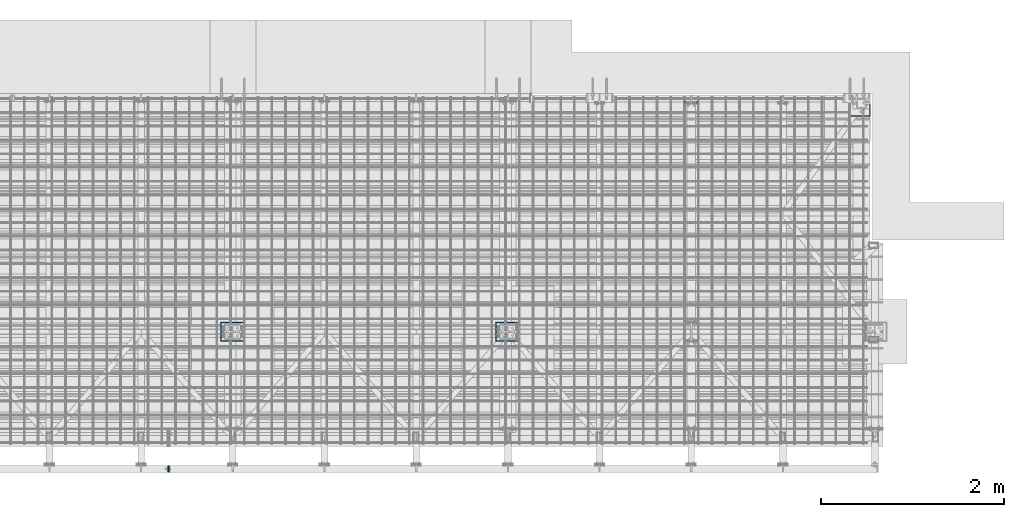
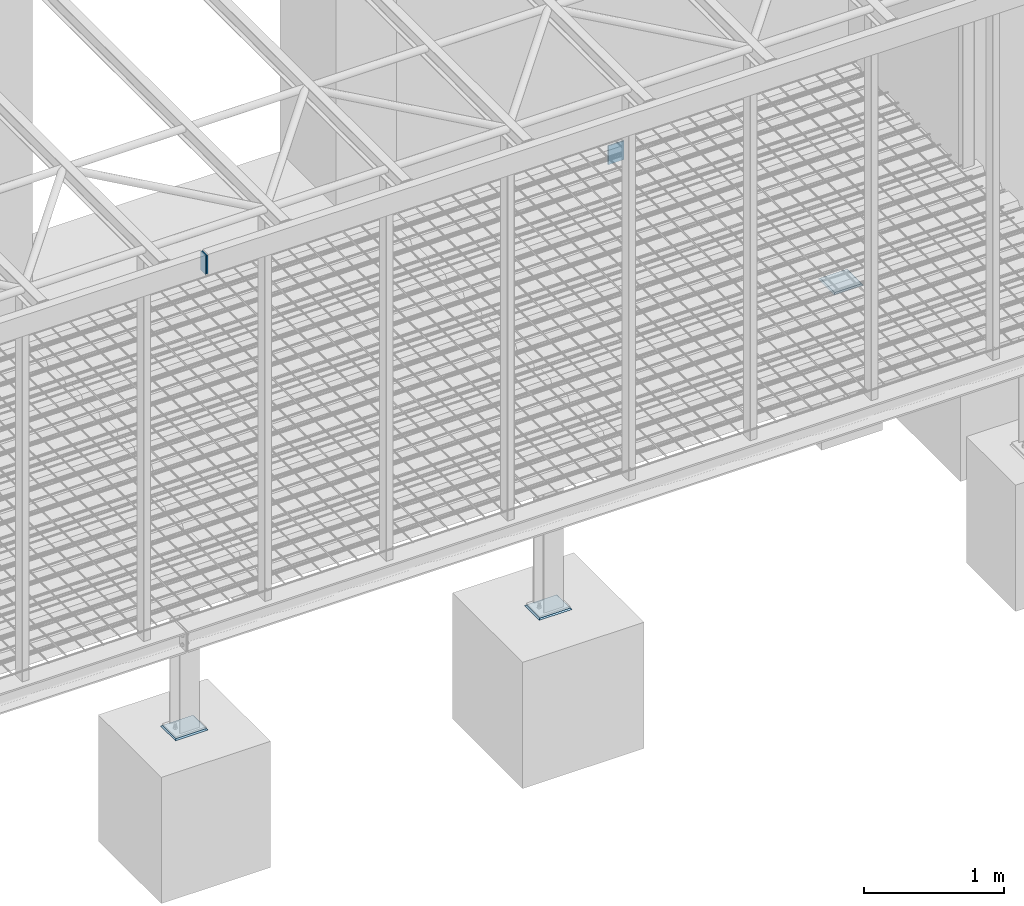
# One storey, part 13 of 26: 6 plates, 6 elements without a shape of their own.
"""IFC2X3 building model written with IfcOpenShell, lengths in millimetres."""

import ifcopenshell
import ifcopenshell.guid

model = None  # the IFC model being written
_history = None  # IfcOwnerHistory: only IFC2X3 demands one
_inside = {}  # id of a spatial element -> (the spatial element, [elements in it])
_under = {}  # id of a project, library or spatial element -> (it, [spatial elements below it])
_declared = {}  # id of a project -> (the project, [libraries it declares])
_typed = {}  # id of a type object -> (the type object, [elements of that type])
_made_of = {}  # id of a material, layer set ... -> (it, [elements and type objects made of it])


def new_model(schema):
    """Start an empty IFC model of exactly this schema.

    Asked for "IFC4X3", IfcOpenShell would pick the latest addendum, in which some entities
    have other attributes; the version numbers below select the first issue.
    IFC2X3 requires an IfcOwnerHistory on every rooted entity: one is made here for all.
    """
    global model, _history
    if schema == "IFC4X3":
        model = ifcopenshell.file(schema_version=(4, 3, 0, 0))
    else:
        model = ifcopenshell.file(schema=schema)
    _inside.clear()
    _under.clear()
    _declared.clear()
    _typed.clear()
    _made_of.clear()
    _history = None
    if model.schema == "IFC2X3":
        org = make("IfcOrganization", Name="unknown")
        user = make(
            "IfcPersonAndOrganization",
            ThePerson=make("IfcPerson", FamilyName="unknown"),
            TheOrganization=org,
        )
        app = make(
            "IfcApplication",
            ApplicationDeveloper=org,
            Version="unknown",
            ApplicationFullName="unknown",
            ApplicationIdentifier="unknown",
        )
        _history = make(
            "IfcOwnerHistory",
            OwningUser=user,
            OwningApplication=app,
            ChangeAction="ADDED",
            CreationDate=0,
        )
    return model


def make(cls, **values):
    """One entity of the class cls with the attributes given. An attribute that is None is left unset."""
    return model.create_entity(
        cls, **{name: value for name, value in values.items() if value is not None}
    )


def rooted(cls, **values):
    """An entity with a GlobalId (a new one), such as an element, a storey or a relation."""
    return make(cls, GlobalId=ifcopenshell.guid.new(), OwnerHistory=_history, **values)


def si_unit(unit_type, name, prefix=None):
    """IfcSIUnit, for example si_unit("LENGTHUNIT", "METRE", prefix="MILLI")."""
    return make("IfcSIUnit", UnitType=unit_type, Prefix=prefix, Name=name)


def assignment(units):
    """IfcUnitAssignment: the units of a project."""
    return None if units is None else make("IfcUnitAssignment", Units=units)


def point(xyz):
    """IfcCartesianPoint."""
    return None if xyz is None else make("IfcCartesianPoint", Coordinates=xyz)


def direction(xyz):
    """IfcDirection."""
    return None if xyz is None else make("IfcDirection", DirectionRatios=xyz)


def frame(location, z_axis=None, x_axis=None):
    """IfcAxis2Placement3D, a coordinate frame: its origin and axes. An axis left out is left unset."""
    return make(
        "IfcAxis2Placement3D",
        Location=point(location),
        Axis=direction(z_axis),
        RefDirection=direction(x_axis),
    )


def origin_with_axes():
    """The frame at (0, 0, 0) with the z axis (0, 0, 1) and the x axis (1, 0, 0) written out."""
    return frame((0.0, 0.0, 0.0), z_axis=(0.0, 0.0, 1.0), x_axis=(1.0, 0.0, 0.0))


def place(relative_to, where):
    """IfcLocalPlacement: puts the frame where relative to a parent placement (None: the world)."""
    return make(
        "IfcLocalPlacement", PlacementRelTo=relative_to, RelativePlacement=where
    )


def context(
    kind, dimensions, precision=None, world=None, true_north=None, identifier=None
):
    """IfcGeometricRepresentationContext, for example the 3D "Model" context."""
    return make(
        "IfcGeometricRepresentationContext",
        ContextIdentifier=identifier,
        ContextType=kind,
        CoordinateSpaceDimension=dimensions,
        Precision=precision,
        WorldCoordinateSystem=world,
        TrueNorth=true_north,
    )


def subcontext(parent, identifier, kind, view, scale=None):
    """IfcGeometricRepresentationSubContext, for example "Body" below "Model"."""
    return make(
        "IfcGeometricRepresentationSubContext",
        ContextIdentifier=identifier,
        ContextType=kind,
        ParentContext=parent,
        TargetScale=scale,
        TargetView=view,
    )


def project(units=None, contexts=None):
    """IfcProject with its units and contexts."""
    return rooted(
        "IfcProject",
        Name="project",
        RepresentationContexts=contexts,
        UnitsInContext=assignment(units),
    )


def spatial(cls, under=None, at=None, **own):
    """A site, building, storey or space (cls), placed at a placement, below another one or the project."""
    s = rooted(cls, ObjectPlacement=at, **own)
    if under is not None:
        _under.setdefault(under.id(), (under, []))[1].append(s)
    return s


def polyline(points):
    """IfcPolyline through the points."""
    return make("IfcPolyline", Points=[point(p) for p in points])


def outline(outer, holes=None, kind="AREA"):
    """IfcArbitraryClosedProfileDef: a profile drawn as a closed curve; with holes, ...WithVoids."""
    if holes is None:
        return make("IfcArbitraryClosedProfileDef", ProfileType=kind, OuterCurve=outer)
    return make(
        "IfcArbitraryProfileDefWithVoids",
        ProfileType=kind,
        OuterCurve=outer,
        InnerCurves=holes,
    )


def extrude(swept, where, along, depth):
    """IfcExtrudedAreaSolid: the profile swept, set in the frame where, extruded along a direction by depth."""
    return make(
        "IfcExtrudedAreaSolid",
        SweptArea=swept,
        Position=where,
        ExtrudedDirection=direction(along),
        Depth=depth,
    )


def boolean(op, a, b):
    """IfcBooleanResult of two solids."""
    return make("IfcBooleanResult", Operator=op, FirstOperand=a, SecondOperand=b)


def shape(context_of_items, identifier, shape_type, items):
    """IfcShapeRepresentation: the items that make up one representation, for example the "Body"."""
    return make(
        "IfcShapeRepresentation",
        ContextOfItems=context_of_items,
        RepresentationIdentifier=identifier,
        RepresentationType=shape_type,
        Items=items,
    )


def material(Name=None, Category=None):
    """IfcMaterial."""
    return make("IfcMaterial", Name=Name, Category=Category)


def made_of(thing, what):
    """Note that an element or type object is made of a material, layer set ...; save() writes the relation."""
    if what is not None:
        _made_of.setdefault(what.id(), (what, []))[1].append(thing)
    return thing


def type_object(cls, material=None, **own):
    """A type object (cls), such as IfcWallType, which elements share."""
    return made_of(rooted(cls, **own), material)


def element(
    cls,
    number,
    at=None,
    inside=None,
    cuts=None,
    type_object=None,
    material=None,
    context=None,
    identifier="Body",
    shape_type=None,
    held_by="IfcProductDefinitionShape",
    body=None,
    shapes=None,
    **own,
):
    """One element of the class cls, such as IfcWall. Its Tag is "e" and its number.

    at: its placement. inside: the storey or other place that contains it. cuts: it is an
    opening in that element (IfcRelVoidsElement). A single representation is given by context,
    identifier, shape_type and body (its items); several are given by shapes. held_by: the class
    of the entity that holds the representations. save() writes the other relations.
    """
    e = rooted(cls, Tag="e%d" % number, ObjectPlacement=at, **own)
    if body is not None:
        shapes = [shape(context, identifier, shape_type, body)]
    if shapes is not None:
        e.Representation = make(held_by, Representations=shapes)
    if inside is not None:
        _inside.setdefault(inside.id(), (inside, []))[1].append(e)
    if cuts is not None:
        rooted(
            "IfcRelVoidsElement", RelatingBuildingElement=cuts, RelatedOpeningElement=e
        )
    if type_object is not None:
        _typed.setdefault(type_object.id(), (type_object, []))[1].append(e)
    return made_of(e, material)


def aggregate(whole, parts):
    """IfcRelAggregates: a whole, such as a stair, and the parts it consists of."""
    return rooted("IfcRelAggregates", RelatingObject=whole, RelatedObjects=parts)


def save(model, path):
    """Write the relations noted so far, then the file.

    IfcRelAggregates (storeys below a building ...), IfcRelContainedInSpatialStructure (elements
    in a storey), IfcRelDefinesByType, IfcRelAssociatesMaterial and IfcRelDeclares: one each for
    every whole, place, type object, material and project.
    """
    for whole, parts in _under.values():
        aggregate(whole, parts)
    for where, things in _inside.values():
        rooted(
            "IfcRelContainedInSpatialStructure",
            RelatedElements=things,
            RelatingStructure=where,
        )
    for kind, things in _typed.values():
        rooted("IfcRelDefinesByType", RelatedObjects=things, RelatingType=kind)
    for what, things in _made_of.values():
        rooted("IfcRelAssociatesMaterial", RelatedObjects=things, RelatingMaterial=what)
    for by, libraries in _declared.values():
        rooted("IfcRelDeclares", RelatingContext=by, RelatedDefinitions=libraries)
    model.write(path)


model = new_model("IFC2X3")

# Units and contexts
model_context = context("Model", 3, precision=1e-05, world=origin_with_axes())
body_context = subcontext(model_context, "Body", "Model", "MODEL_VIEW")
ifc_project = project(units=[si_unit("LENGTHUNIT", "METRE", prefix="MILLI"), si_unit("AREAUNIT", "SQUARE_METRE"), si_unit("VOLUMEUNIT", "CUBIC_METRE"), si_unit("MASSUNIT", "GRAM", prefix="KILO"), si_unit("TIMEUNIT", "SECOND"), si_unit("PLANEANGLEUNIT", "RADIAN"), si_unit("SOLIDANGLEUNIT", "STERADIAN"), si_unit("THERMODYNAMICTEMPERATUREUNIT", "DEGREE_CELSIUS"), si_unit("LUMINOUSINTENSITYUNIT", "LUMEN")], contexts=[model_context])

# Site, building, storey
site_placement = place(None, origin_with_axes())
site = spatial("IfcSite", under=ifc_project, at=site_placement, Name="Undefined", CompositionType="ELEMENT")
building_placement = place(site_placement, origin_with_axes())
building = spatial("IfcBuilding", under=site, at=building_placement, Name="Undefined", CompositionType="ELEMENT")
storey_placement = place(building_placement, origin_with_axes())
storey = spatial("IfcBuildingStorey", under=building, at=storey_placement, Name="Undefined", CompositionType="ELEMENT", Elevation=0.0)

# Assembly, plate
assembly_1_placement = place(storey_placement, origin_with_axes())
assembly_1 = element("IfcElementAssembly", 1, at=assembly_1_placement, inside=storey, Name="GROUT", AssemblyPlace="NOTDEFINED", PredefinedType="NOTDEFINED")
ifc_material_1 = material(Name="Undefined/GROUT")
plate_type_1 = type_object("IfcPlateType", Name="PL10*230", PredefinedType="NOTDEFINED")
plate_1_placement = place(assembly_1_placement, frame((16005.0, 3610.0, -1995.0), z_axis=(0.0, 0.0, 1.0), x_axis=(0.0, 1.0, 0.0)))
plate_1 = element("IfcPlate", 2, at=plate_1_placement, type_object=plate_type_1, material=ifc_material_1, Name="GROUT", ObjectType="PL10*230", context=body_context, shape_type="CSG", body=[
    boolean("DIFFERENCE", boolean("DIFFERENCE", boolean("DIFFERENCE", boolean("DIFFERENCE", extrude(outline(polyline([(0.0, 0.0), (230.0, 0.0), (230.0, 240.0), (0.0, 240.0), (0.0, 0.0)])), frame((0.0, 0.0, -5.0), z_axis=(0.0, 0.0, 1.0), x_axis=(1.0, 0.0, 0.0)), (0.0, 0.0, 1.0), 10.0), extrude(outline(polyline([(0.0, 0.0), (30.1421356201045, -2.00088834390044e-11), (15.0710678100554, 15.0710678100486), (0.0, 0.0)])), frame((-5.65685424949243, 288.0, -10.6568542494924), z_axis=(0.0, -1.0, 0.0), x_axis=(0.707106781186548, 0.0, 0.707106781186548)), (0.0, 0.0, 1.0), 306.0)), extrude(outline(polyline([(0.0, 0.0), (28.1421356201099, -2.91038304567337e-11), (14.0710678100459, 14.0710678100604), (0.0, 0.0)])), frame((258.0, 244.949747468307, -9.94974746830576), z_axis=(-1.0, 0.0, 0.0), x_axis=(0.0, -0.707106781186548, 0.707106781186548)), (0.0, 0.0, 1.0), 304.0)), extrude(outline(polyline([(0.0, 0.0), (26.1421356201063, -2.1600499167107e-11), (13.0710678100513, 13.0710678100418), (0.0, 0.0)])), frame((234.242640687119, -16.0, -9.24264068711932), z_axis=(0.0, 1.0, 0.0), x_axis=(-0.707106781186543, 0.0, 0.707106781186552)), (0.0, 0.0, 1.0), 302.0)), extrude(outline(polyline([(0.0, 0.0), (24.1421356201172, -1.81898940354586e-11), (12.0710678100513, 12.071067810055), (0.0, 0.0)])), frame((-44.0, -3.53553390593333, -8.53553390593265), z_axis=(1.0, 0.0, 0.0), x_axis=(0.0, 0.707106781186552, 0.707106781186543)), (0.0, 0.0, 1.0), 300.0)),
])
aggregate(assembly_1, [plate_1])

assembly_2_placement = place(storey_placement, origin_with_axes())
assembly_2 = element("IfcElementAssembly", 3, at=assembly_2_placement, inside=storey, Name="GROUT", AssemblyPlace="NOTDEFINED", PredefinedType="NOTDEFINED")
plate_type_2 = type_object("IfcPlateType", Name="PL10*212", PredefinedType="NOTDEFINED")
plate_2_placement = place(assembly_2_placement, frame((12185.0, 1154.0, -1995.0), z_axis=(0.0, 0.0, 1.0), x_axis=(0.0, 1.0, 0.0)))
plate_2 = element("IfcPlate", 4, at=plate_2_placement, type_object=plate_type_2, material=ifc_material_1, Name="GROUT", ObjectType="PL10*212", context=body_context, shape_type="CSG", body=[
    boolean("DIFFERENCE", boolean("DIFFERENCE", boolean("DIFFERENCE", boolean("DIFFERENCE", extrude(outline(polyline([(0.0, 0.0), (212.0, 0.0), (212.0, 270.0), (0.0, 270.0), (0.0, 0.0)])), frame((0.0, 0.0, -5.0), z_axis=(0.0, 0.0, 1.0), x_axis=(1.0, 0.0, 0.0)), (0.0, 0.0, 1.0), 10.0), extrude(outline(polyline([(0.0, 0.0), (30.1421356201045, -2.00088834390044e-11), (15.0710678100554, 15.0710678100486), (0.0, 0.0)])), frame((-5.65685424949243, 288.0, -10.6568542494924), z_axis=(0.0, -1.0, 0.0), x_axis=(0.707106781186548, 0.0, 0.707106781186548)), (0.0, 0.0, 1.0), 306.0)), extrude(outline(polyline([(0.0, 0.0), (28.1421356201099, -2.91038304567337e-11), (14.0710678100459, 14.0710678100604), (0.0, 0.0)])), frame((258.0, 274.949747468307, -9.94974746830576), z_axis=(-1.0, 0.0, 0.0), x_axis=(0.0, -0.707106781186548, 0.707106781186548)), (0.0, 0.0, 1.0), 304.0)), extrude(outline(polyline([(0.0, 0.0), (26.1421356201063, -2.1600499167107e-11), (13.0710678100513, 13.0710678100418), (0.0, 0.0)])), frame((216.242640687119, -16.0, -9.24264068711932), z_axis=(0.0, 1.0, 0.0), x_axis=(-0.707106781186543, 0.0, 0.707106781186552)), (0.0, 0.0, 1.0), 302.0)), extrude(outline(polyline([(0.0, 0.0), (24.1421356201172, -1.81898940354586e-11), (12.0710678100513, 12.071067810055), (0.0, 0.0)])), frame((-44.0, -3.53553390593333, -8.53553390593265), z_axis=(1.0, 0.0, 0.0), x_axis=(0.0, 0.707106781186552, 0.707106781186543)), (0.0, 0.0, 1.0), 300.0)),
])
aggregate(assembly_2, [plate_2])

assembly_3_placement = place(storey_placement, origin_with_axes())
assembly_3 = element("IfcElementAssembly", 5, at=assembly_3_placement, inside=storey, Name="GROUT", AssemblyPlace="NOTDEFINED", PredefinedType="NOTDEFINED")
plate_3_placement = place(assembly_3_placement, frame((9185.0, 1154.0, -1995.0), z_axis=(0.0, 0.0, 1.0), x_axis=(0.0, 1.0, 0.0)))
plate_3 = element("IfcPlate", 6, at=plate_3_placement, type_object=plate_type_2, material=ifc_material_1, Name="GROUT", ObjectType="PL10*212", context=body_context, shape_type="CSG", body=[
    boolean("DIFFERENCE", boolean("DIFFERENCE", boolean("DIFFERENCE", boolean("DIFFERENCE", extrude(outline(polyline([(0.0, 0.0), (212.0, 0.0), (212.0, 270.0), (0.0, 270.0), (0.0, 0.0)])), frame((0.0, 0.0, -5.0), z_axis=(0.0, 0.0, 1.0), x_axis=(1.0, 0.0, 0.0)), (0.0, 0.0, 1.0), 10.0), extrude(outline(polyline([(0.0, 0.0), (30.1421356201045, -2.00088834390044e-11), (15.0710678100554, 15.0710678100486), (0.0, 0.0)])), frame((-5.65685424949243, 288.0, -10.6568542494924), z_axis=(0.0, -1.0, 0.0), x_axis=(0.707106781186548, 0.0, 0.707106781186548)), (0.0, 0.0, 1.0), 306.0)), extrude(outline(polyline([(0.0, 0.0), (28.1421356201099, -2.91038304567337e-11), (14.0710678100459, 14.0710678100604), (0.0, 0.0)])), frame((258.0, 274.949747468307, -9.94974746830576), z_axis=(-1.0, 0.0, 0.0), x_axis=(0.0, -0.707106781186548, 0.707106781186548)), (0.0, 0.0, 1.0), 304.0)), extrude(outline(polyline([(0.0, 0.0), (26.1421356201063, -2.1600499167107e-11), (13.0710678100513, 13.0710678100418), (0.0, 0.0)])), frame((216.242640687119, -16.0, -9.24264068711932), z_axis=(0.0, 1.0, 0.0), x_axis=(-0.707106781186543, 0.0, 0.707106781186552)), (0.0, 0.0, 1.0), 302.0)), extrude(outline(polyline([(0.0, 0.0), (24.1421356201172, -1.81898940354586e-11), (12.0710678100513, 12.071067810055), (0.0, 0.0)])), frame((-44.0, -3.53553390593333, -8.53553390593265), z_axis=(1.0, 0.0, 0.0), x_axis=(0.0, 0.707106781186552, 0.707106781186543)), (0.0, 0.0, 1.0), 300.0)),
])
aggregate(assembly_3, [plate_3])

assembly_4_placement = place(storey_placement, origin_with_axes())
assembly_4 = element("IfcElementAssembly", 7, at=assembly_4_placement, inside=storey, AssemblyPlace="NOTDEFINED", PredefinedType="REINFORCEMENT_UNIT")
ifc_material_2 = material(Name="STEEL/S235JR")
plate_type_3 = type_object("IfcPlateType", Name="PL10*130", PredefinedType="NOTDEFINED")
plate_4_placement = place(assembly_4_placement, frame((13985.0, 3760.0, -168.0), z_axis=(0.0, 1.0, 0.0), x_axis=(1.0, 0.0, 0.0)))
plate_4 = element("IfcPlate", 8, at=plate_4_placement, type_object=plate_type_3, material=ifc_material_2, Name="PLECH", ObjectType="PL10*130", context=body_context, shape_type="SweptSolid", body=[
    extrude(outline(polyline([(0.0, 0.0), (130.0, 0.0), (130.0, 164.0), (0.0, 164.0), (0.0, 0.0)])), frame((0.0, 0.0, -5.0), z_axis=(0.0, 0.0, 1.0), x_axis=(1.0, 0.0, 0.0)), (0.0, 0.0, 1.0), 10.0),
])
aggregate(assembly_4, [plate_4])

assembly_5_placement = place(storey_placement, origin_with_axes())
assembly_5 = element("IfcElementAssembly", 9, at=assembly_5_placement, inside=storey, Name="Steel Assembly", AssemblyPlace="NOTDEFINED", PredefinedType="RIGID_FRAME")
plate_type_4 = type_object("IfcPlateType", Name="PL10*70", PredefinedType="NOTDEFINED")
plate_5_placement = place(assembly_5_placement, frame((8345.0, -199.999999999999, 3289.5), z_axis=(1.0, 0.0, 0.0), x_axis=(0.0, -1.0, 0.0)))
plate_5 = element("IfcPlate", 10, at=plate_5_placement, type_object=plate_type_4, material=ifc_material_2, Name="PLECH", ObjectType="PL10*70", context=body_context, shape_type="SweptSolid", body=[
    extrude(outline(polyline([(0.0, 0.0), (70.0, 4.54747350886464e-13), (70.0, 159.0), (-3.63797880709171e-12, 159.0), (0.0, 0.0)])), frame((0.0, 0.0, -5.0), z_axis=(0.0, 0.0, 1.0), x_axis=(1.0, 0.0, 0.0)), (0.0, 0.0, 1.0), 10.0),
])
aggregate(assembly_5, [plate_5])

assembly_6_placement = place(storey_placement, origin_with_axes())
assembly_6 = element("IfcElementAssembly", 11, at=assembly_6_placement, inside=storey, Name="Steel Assembly", AssemblyPlace="NOTDEFINED", PredefinedType="RIGID_FRAME")
plate_6_placement = place(assembly_6_placement, frame((8355.0, -199.999999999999, 3289.5), z_axis=(1.0, 0.0, 0.0), x_axis=(0.0, -1.0, 0.0)))
plate_6 = element("IfcPlate", 12, at=plate_6_placement, type_object=plate_type_4, material=ifc_material_2, Name="PLECH", ObjectType="PL10*70", context=body_context, shape_type="SweptSolid", body=[
    extrude(outline(polyline([(0.0, 0.0), (70.0, 4.54747350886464e-13), (70.0, 159.0), (-3.63797880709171e-12, 159.0), (0.0, 0.0)])), frame((0.0, 0.0, -5.0), z_axis=(0.0, 0.0, 1.0), x_axis=(1.0, 0.0, 0.0)), (0.0, 0.0, 1.0), 10.0),
])
aggregate(assembly_6, [plate_6])

save(model, "model.ifc")
